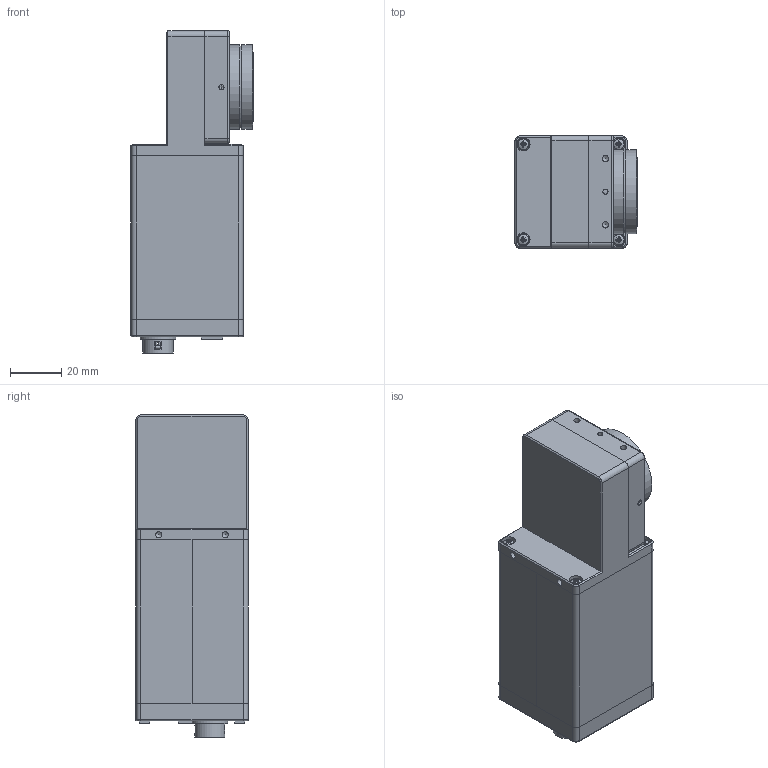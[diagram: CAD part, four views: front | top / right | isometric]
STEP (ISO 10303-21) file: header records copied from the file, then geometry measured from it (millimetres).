
FILE_DESCRIPTION((''),'2;1');
FILE_NAME('K:\Inventor\Kamerafamilien\Pike\STEP-Dateien_Pike\Pike_W270.stp','2010-03-18T11:33:21',('mressin'),(''),'Autodesk Inventor 11','Autodesk Inventor 11','');
FILE_SCHEMA(('AUTOMOTIVE_DESIGN { 1 0 10303 214 1 1 1 1 }'));
Length unit declared in the file: millimetre
Products named in the file (35): Pike_W270; Pike Frontflansch; K5000741_Pike_Frontplatte; Pike_Klemmteil+Filter; K5000742_Pike_C-Mountflansch-Klemmteil_großerSensor; K5100167_Filter_B270(ASG)-24mm; Pike_Sensor_KAI2093_1v10; K5000765_Pike_Sensorauflage_KAI20XX; K8150076_Sensor_KAI2093-ABA-CB-B2_2MP_mono; K5540017_Gewindestift ISO4026-M2,5x6-A2; K5510128_Zylinderschr. mit ISK ISO4762-M2x8-A4; RÜCKWAND PIKE CU; K5000919_Pike_Rückwand-PUH; Pike_Backplane-EMV_2v00_FF; Pike_Backplane-EMV_2v00; Marlin-IO-Board; STECKER-KPL-K7600043; Pinträger-10J43_2; PinB-lang-10J43; PinB-kurz-10J43; Trägerfassung-10J43; HIROSE-12pol-klemmring; HIROSE-12pol-6kt-ring; K5510139_Zylinderschr. mit ISK ISO4762-M2x3-A2; K5000967_Pike-Seite rechts_MSZ; K5000966_Pike_Seite-links_MSZ; K5000779_Pike_Winkeladapter-universal; Pike_Kodak_AFE_2v20; Pike_FPGA_2v00; Pike_uC-Cu-EMV_2v50; Pike_uC_Cu_2v10; FW-1fach; Pike_Power_EMV_2v00; K5510003_Linsenschraube mit KS ISO7045-M2,5x8-A2-sw
Assembly tree (61 placements, depth 7):
  Pike_W270
    Pike Frontflansch
      K5000741_Pike_Frontplatte
      Pike_Klemmteil+Filter
        K5000742_Pike_C-Mountflansch-Klemmteil_großerSensor
        K5100167_Filter_B270(ASG)-24mm
      Pike_Sensor_KAI2093_1v10
      K5000765_Pike_Sensorauflage_KAI20XX
      K8150076_Sensor_KAI2093-ABA-CB-B2_2MP_mono
      K5540017_Gewindestift ISO4026-M2,5x6-A2  x2
      K5510128_Zylinderschr. mit ISK ISO4762-M2x8-A4  x4
    RÜCKWAND PIKE CU
      K5000919_Pike_Rückwand-PUH
      Pike_Backplane-EMV_2v00_FF
        Pike_Backplane-EMV_2v00
        Marlin-IO-Board
          STECKER-KPL-K7600043
            Pinträger-10J43_2
              Pinträger-10J43_2
              PinB-lang-10J43  x3
              PinB-kurz-10J43  x9
            Trägerfassung-10J43
          HIROSE-12pol-klemmring
          HIROSE-12pol-6kt-ring
      K5510139_Zylinderschr. mit ISK ISO4762-M2x3-A2  x2
    K5000967_Pike-Seite rechts_MSZ
    K5000966_Pike_Seite-links_MSZ
    K5000779_Pike_Winkeladapter-universal
    Pike_Kodak_AFE_2v20
    Pike_FPGA_2v00
    Pike_uC-Cu-EMV_2v50
      Pike_uC_Cu_2v10
      FW-1fach  x2
    Pike_Power_EMV_2v00
    K5510003_Linsenschraube mit KS ISO7045-M2,5x8-A2-sw  x12
Bounding box: 47.9 x 44 x 126.3 mm (x, y, z)
Volume: 81446.7 mm3; surface area: 92384.2 mm2
Topology: 53 solids, 53 shells, 2238 faces, 5749 edges, 3753 vertices
Faces by surface type: plane 1308, bspline 352, cylinder 252, cone 240, torus 74, sphere 12
Full cylindrical faces by diameter (mm): 0.3 x1, 0.5 x13, 0.6 x12, 1 x1, 1.1 x12, 1.8 x2, 2 x6, 2.256 x12, 2.5 x14, 2.54 x2, 3 x2, 3.8 x6, 6.3 x2, 6.5 x1, 7.5 x1, 8.3 x3, 8.5 x1, 10.2 x1, 10.6 x1, 10.8 x2, 11.8 x1, 14 x2, 16 x1, 22 x1, 24 x1, 24.3 x1, 28.5 x1, 29 x1, 30 x1, 33 x2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
Entity records: 51645 total; most frequent: CARTESIAN_POINT 13597, ORIENTED_EDGE 7884, DIRECTION 6824, EDGE_CURVE 3942, VECTOR 2828, LINE 2828, VERTEX_POINT 2690, AXIS2_PLACEMENT_3D 1998
